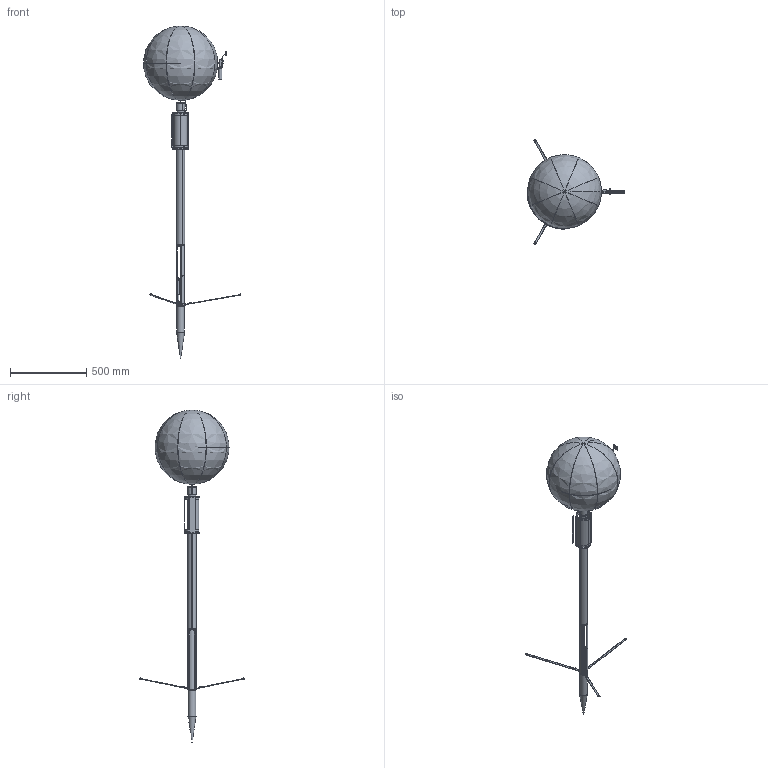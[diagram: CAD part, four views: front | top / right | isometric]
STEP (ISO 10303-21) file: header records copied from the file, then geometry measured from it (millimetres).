
FILE_DESCRIPTION(('Open CASCADE Model'),'2;1');
FILE_NAME('Open CASCADE Shape Model','2026-08-25T14:47:20',('Author'),( 'Open CASCADE'),'Open CASCADE STEP processor 7.9','Open CASCADE 7.9' ,'Unknown');
FILE_SCHEMA(('AP242_MANAGED_MODEL_BASED_3D_ENGINEERING_MIM_LF {1 0 10303 442 1 1 4 }' ));
Length unit declared in the file: millimetre
Products named in the file (105): STINGRAY_I5S_DF8_SHORT14_EXTERNAL_BUOY_DEPLOYED_ASSY; Forward_Body_Assembly; Penetrator_Nose_W; Forward_Ballast_W; BALLAST-AFT-FACE_TO_ARM-CARRIER_STRUCTURAL_TRANSITION_RING_TI; Forward_Mandatory_Hardware_Assembly; Accu_HTP-3-30-A1; Arm_Activation_Powertrain_Assembly; SHORTENED_ANALYTIC_CYLINDRICAL_FIXED_BODY_SECTOR_TI_01; SHORTENED_PRIMARY_ARM-MODULE_LONGERON_TI_01; SHORTENED_FIXED_SECTOR_3_WITH_BACKUP-GUIDE_ACCESS_TI; SHORTENED_PRIMARY_LONGERON_3_WITH_BACKUP-GUIDE_BORES_TI; SHORT-ARM_MODULE_AFT_STRUCTURAL_TERMINATION_RING_TI; ONE-PIECE_SIX-CLEVIS_GUIDED_COMMON_CROSSHEAD_WITHOUT_BOOLEAN_DEBRIS_SS; CENTRAL_DLC_CROSSHEAD_GUIDE_SHAFT_WITH_SPIDER_SHOULDER_SS; THREE-SPOKE_CROSSHEAD-GUIDE_FORWARD_MOUNT_TI; CONTROLLED_16_N_MM_GUIDED_BACKUP_COMPRESSION_SPRING_SS; BACKUP_SPRING_AFT_FIXED_SEAT_WITH_LONGERON_MOUNTING_TONGUE_TI; BACKUP_SPRING_CROSSHEAD_SEAT_WITH_PILOTED_PERMANENT_LAND_SS; BACKUP_SPRING_DLC_GUIDE_SHAFT_WITH_TWO_FIXED_SUPPORT_SHOULDERS_SS; ACE_Gas_Spring_GS-19-50-V4A-B8-B8; ACE_Gas_Spring_Rod_GS-19-50-V4A-B8-B8; ACE_Hydraulic_Damper_HBD-15-25-AA-P; ACE_Hydraulic_Damper_Rod_HBD-15-25-AA-P; DOUBLE-SHEAR_GS19_ANCHOR_YOKE_WITH_CONFORMAL_LONGERON_TONGUE_TI; 4_MM_CAPTIVE_ACTUATOR_CLEVIS_PIN_SS_01; 4_MM_ACTUATOR_PIN_RETAINER_SS_01; DOUBLE-SHEAR_HBD_ANCHOR_YOKE_WITH_CONFORMAL_LONGERON_TONGUE_TI; Arm_Deployment_Assembly_01; 378.206_MM_PIVOT-TO-TIP_SHORTENED_ARM_BLADE_WITH_CONTROLLED_ROUNDED_
TIP_TI_01; SOURCE-EXACT_DOUBLE-SHEAR_PIVOT_CARRIER_PRIMARY_LUG_TI_01; 8_MM_CAPTIVE_SHOULDER_PIVOT_PIN_WITH_EXTERNAL_GROOVE_SS_01; 8_MM_PEEK-LINED_PIVOT_BUSHING_PEEK_01; 8_MM_PEEK_THRUST_WASHER_PEEK_01; 8_MM_EXTERNAL_SPIRAL_PIVOT_RETAINER_SS_01; 19.950_MM_CENTER-DISTANCE_REAMED_SHORT_LINK_SS_01; 4_MM_FULL-SPAN_LINK_PIN_WITH_DC-4SS_RETAINER_GROOVE_SS_01; Rotor_Clip_Retaining_Ring_DC-4SS_01; REPLACEABLE_ARM_STOP_AND_AUTOMATIC-LOCK_STRIKE_SS_01; 80_DEGREE_SWEPT-CLEARANCE_FIXED_STOP_WITH_CONTROLLED_AUTOMATIC-LOCK_
BUSHING_SEAT_SS_01 ...
Assembly tree (192 placements, depth 4):
  STINGRAY_I5S_DF8_SHORT14_EXTERNAL_BUOY_DEPLOYED_ASSY
    Forward_Body_Assembly
      Penetrator_Nose_W
      Forward_Ballast_W
      BALLAST-AFT-FACE_TO_ARM-CARRIER_STRUCTURAL_TRANSITION_RING_TI
      Forward_Mandatory_Hardware_Assembly
        Accu_HTP-3-30-A1
    Arm_Activation_Powertrain_Assembly
      SHORTENED_ANALYTIC_CYLINDRICAL_FIXED_BODY_SECTOR_TI_01  x2
      SHORTENED_PRIMARY_ARM-MODULE_LONGERON_TI_01  x2
      SHORTENED_FIXED_SECTOR_3_WITH_BACKUP-GUIDE_ACCESS_TI
      SHORTENED_PRIMARY_LONGERON_3_WITH_BACKUP-GUIDE_BORES_TI
      SHORT-ARM_MODULE_AFT_STRUCTURAL_TERMINATION_RING_TI
      ONE-PIECE_SIX-CLEVIS_GUIDED_COMMON_CROSSHEAD_WITHOUT_BOOLEAN_DEBRIS_SS
      CENTRAL_DLC_CROSSHEAD_GUIDE_SHAFT_WITH_SPIDER_SHOULDER_SS
      THREE-SPOKE_CROSSHEAD-GUIDE_FORWARD_MOUNT_TI
      CONTROLLED_16_N_MM_GUIDED_BACKUP_COMPRESSION_SPRING_SS
      BACKUP_SPRING_AFT_FIXED_SEAT_WITH_LONGERON_MOUNTING_TONGUE_TI
      BACKUP_SPRING_CROSSHEAD_SEAT_WITH_PILOTED_PERMANENT_LAND_SS
      BACKUP_SPRING_DLC_GUIDE_SHAFT_WITH_TWO_FIXED_SUPPORT_SHOULDERS_SS
      ACE_Gas_Spring_GS-19-50-V4A-B8-B8
      ACE_Gas_Spring_Rod_GS-19-50-V4A-B8-B8
      ACE_Hydraulic_Damper_HBD-15-25-AA-P
      ACE_Hydraulic_Damper_Rod_HBD-15-25-AA-P
      DOUBLE-SHEAR_GS19_ANCHOR_YOKE_WITH_CONFORMAL_LONGERON_TONGUE_TI
      4_MM_CAPTIVE_ACTUATOR_CLEVIS_PIN_SS_01  x4
      4_MM_ACTUATOR_PIN_RETAINER_SS_01  x4
      DOUBLE-SHEAR_HBD_ANCHOR_YOKE_WITH_CONFORMAL_LONGERON_TONGUE_TI
      Arm_Deployment_Assembly_01
        378.206_MM_PIVOT-TO-TIP_SHORTENED_ARM_BLADE_WITH_CONTROLLED_ROUNDED_
TIP_TI_01
        SOURCE-EXACT_DOUBLE-SHEAR_PIVOT_CARRIER_PRIMARY_LUG_TI_01
        8_MM_CAPTIVE_SHOULDER_PIVOT_PIN_WITH_EXTERNAL_GROOVE_SS_01
        8_MM_PEEK-LINED_PIVOT_BUSHING_PEEK_01  x2
        8_MM_PEEK_THRUST_WASHER_PEEK_01  x2
        8_MM_EXTERNAL_SPIRAL_PIVOT_RETAINER_SS_01
        19.950_MM_CENTER-DISTANCE_REAMED_SHORT_LINK_SS_01  x2
        4_MM_FULL-SPAN_LINK_PIN_WITH_DC-4SS_RETAINER_GROOVE_SS_01  x2
        Rotor_Clip_Retaining_Ring_DC-4SS_01  x2
        REPLACEABLE_ARM_STOP_AND_AUTOMATIC-LOCK_STRIKE_SS_01
        80_DEGREE_SWEPT-CLEARANCE_FIXED_STOP_WITH_CONTROLLED_AUTOMATIC-LOCK_
BUSHING_SEAT_SS_01
        CAPTIVE_RADIAL_STOWED-RETENTION_DOG_WITH_TRANSPORT-INHIBIT_BORE_SS_01
        SHORTENED-ARM_STOW-DOG_GUIDE_WITH_TERMINATION-RING_WELD_TONGUE_SS_01
        CAPTIVE_STOW-DOG_RADIAL_RETURN_SPRING_SS_01
        WITHDRAWABLE_HEADED_TRANSPORT-INHIBIT_PIN_SS_01
        CAPTIVE_CRESCENT_RETAINER_FOR_TRANSPORT-INHIBIT_PIN_SS_01
        SPRING-DRIVEN_POSITIVE_DEPLOYED_LOCK_DOG_SS_01
        CAPTIVE_LONG-STROKE_AUTOMATIC-LOCK_COMPRESSION_SPRING_SS_01
        PRESS-FIT_LOCK_GUIDE_OUTER_RETAINER_BUSHING_PEEK_01
        SOURCE-EXACT_DOUBLE-SHEAR_PIVOT_CARRIER_SECONDARY_LUG_TI_01
      Arm_Deployment_Assembly_02
        378.206_MM_PIVOT-TO-TIP_SHORTENED_ARM_BLADE_WITH_CONTROLLED_ROUNDED_
TIP_TI_01
        SOURCE-EXACT_DOUBLE-SHEAR_PIVOT_CARRIER_PRIMARY_LUG_TI_01
        8_MM_CAPTIVE_SHOULDER_PIVOT_PIN_WITH_EXTERNAL_GROOVE_SS_01
        8_MM_PEEK-LINED_PIVOT_BUSHING_PEEK_01  x2
        8_MM_PEEK_THRUST_WASHER_PEEK_01  x2
        8_MM_EXTERNAL_SPIRAL_PIVOT_RETAINER_SS_01
        19.950_MM_CENTER-DISTANCE_REAMED_SHORT_LINK_SS_01  x2
        4_MM_FULL-SPAN_LINK_PIN_WITH_DC-4SS_RETAINER_GROOVE_SS_01  x2
        Rotor_Clip_Retaining_Ring_DC-4SS_01  x2
        REPLACEABLE_ARM_STOP_AND_AUTOMATIC-LOCK_STRIKE_SS_01
Bounding box: 633.98 x 685.44 x 2173.31 mm (x, y, z)
Volume: 1373553.5 mm3; surface area: 2311823.3 mm2
Topology: 180 solids, 180 shells, 4072 faces, 11481 edges, 7694 vertices
Faces by surface type: plane 2375, cylinder 1554, sphere 106, cone 26, bspline 7, torus 4
Full cylindrical faces by diameter (mm): 0.7 x3, 0.8 x81, 0.9 x3, 1 x3, 1.2 x10, 1.3 x9, 1.5 x3, 1.6 x3, 1.7 x3, 2 x6, 2.2 x12, 2.3 x6, 2.4 x3, 2.5 x8, 2.7 x6, 3 x26, 3.1 x6, 3.2 x6, 3.3 x9, 3.5 x10, 4 x25, 4.3 x2, 4.36 x20, 5 x3, 5.1 x2, 5.5 x15, 5.7 x2, 6 x14, 6.3 x3, 6.4 x3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
Entity records: 163599 total; most frequent: CARTESIAN_POINT 52770, DIRECTION 19161, ORIENTED_EDGE 11280, PCURVE 11280, DEFINITIONAL_REPRESENTATION 11280, LINE 7858, VECTOR 7858, EDGE_CURVE 5640
